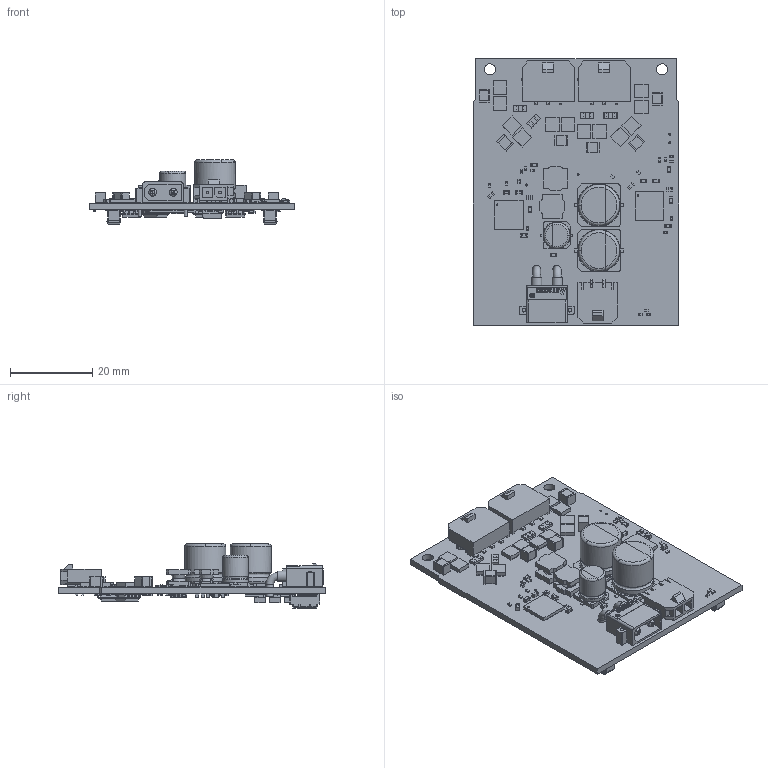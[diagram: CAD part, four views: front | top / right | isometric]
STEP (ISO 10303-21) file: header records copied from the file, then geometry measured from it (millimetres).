
FILE_DESCRIPTION(('KiCad electronic assembly'),'2;1');
FILE_NAME('elec_Ventouse_2d.step','2024-12-26T11:12:06',('Pcbnew'),( 'Kicad'),'Open CASCADE STEP processor 7.6','KiCad to STEP converter' ,'Unknown');
FILE_SCHEMA(('AUTOMOTIVE_DESIGN { 1 0 10303 214 1 1 1 1 }'));
Length unit declared in the file: millimetre
Products named in the file (44): elec_Ventouse_2d 1; R_0402_1005Metric; C_0402_1005Metric; C_0603_1608Metric; C_1210_3225Metric; R_0603_1608Metric; L_Bourns_SRN6045TA; ERJ8CWFR010V; BSZ034N04LS; BSZ110N08NS5ATMA1; 43650-0310; 436500310wbm000_01; Amass_XT30PW-M_pcb solder; 43650-0210; 43650-0210_1; LED_0603_1608Metric; CP_Elec_6.3x7.7; CP_Elec_63x77; QFN37_7X7_TRI; part; CP_Elec_10x10.5; CP_Elec_10x105; SOIC-8_3.9x4.9mm_P1.27mm; SOIC_8_39x49mm_P127mm; TSOT-23-6; TSOT_23_6; D_SMA; R_2512_6332Metric; D_SOD-523; D_SOD_523; Molex_539160208; 539160208; elec_Ventouse_2d PCB
Assembly tree (143 placements, depth 3):
  elec_Ventouse_2d 1
    R_0402_1005Metric  x29
      R_0402_1005Metric
    C_0402_1005Metric  x23
      C_0402_1005Metric
    C_0603_1608Metric  x17
      C_0603_1608Metric
    C_1210_3225Metric  x6
      C_1210_3225Metric
    R_0603_1608Metric  x2
      R_0603_1608Metric
    L_Bourns_SRN6045TA  x2
      L_Bourns_SRN6045TA
    ERJ8CWFR010V  x4
      ERJ8CWFR010V
    BSZ034N04LS  x12
      BSZ110N08NS5ATMA1
    43650-0310  x2
      436500310wbm000_01
    Amass_XT30PW-M_pcb solder
      Amass_XT30PW-M_pcb solder
    43650-0210
      43650-0210_1
    LED_0603_1608Metric  x2
      LED_0603_1608Metric
    CP_Elec_6.3x7.7
      CP_Elec_63x77
    QFN37_7X7_TRI  x2
      part
    CP_Elec_10x10.5  x2
      CP_Elec_10x105
    SOIC-8_3.9x4.9mm_P1.27mm  x4
      SOIC_8_39x49mm_P127mm
    TSOT-23-6  x2
      TSOT_23_6
    D_SMA  x3
      D_SMA
    R_2512_6332Metric  x3
      R_2512_6332Metric
    D_SOD-523
      D_SOD_523
    Molex_539160208  x2
      539160208
    elec_Ventouse_2d PCB
Bounding box: 50 x 65 x 15.69 mm (x, y, z)
Volume: 9151.3 mm3; surface area: 14280.3 mm2
Topology: 249 solids, 249 shells, 7099 faces, 18673 edges, 12459 vertices
Faces by surface type: plane 5235, cylinder 1545, bspline 282, torus 16, revolution 11, cone 10
Full cylindrical faces by diameter (mm): 0.351 x2, 0.5 x4, 0.6 x4, 0.9 x4, 1 x2, 1.9 x4, 2.5 x2, 2.54 x6, 2.7 x2, 6.3 x2, 10 x4
Entity records: 171065 total; most frequent: CARTESIAN_POINT 40577, DIRECTION 22094, LINE 15104, VECTOR 15104, ORIENTED_EDGE 12072, PCURVE 12072, DEFINITIONAL_REPRESENTATION 12072, EDGE_CURVE 6036
